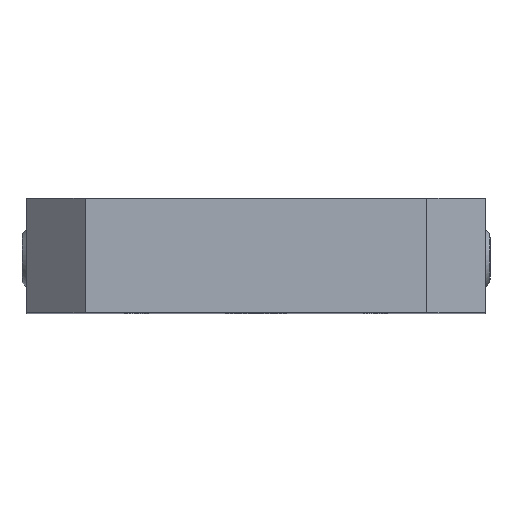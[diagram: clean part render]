
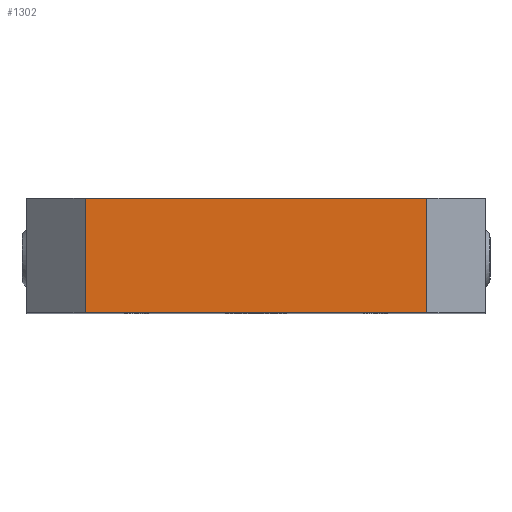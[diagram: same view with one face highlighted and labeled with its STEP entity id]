
A CAD part, top view. The second image highlights one B-rep face of the part: STEP entity #1302.
In plain terms, the highlighted planar face has unit normal (0, 0, 1).
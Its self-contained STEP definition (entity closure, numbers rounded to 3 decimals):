
#8 = VERTEX_POINT ( 'NONE', #1368 ) ;
#222 = PLANE ( 'NONE',  #4430 ) ;
#280 = ORIENTED_EDGE ( 'NONE', *, *, #3803, .T. ) ;
#319 = ORIENTED_EDGE ( 'NONE', *, *, #3734, .F. ) ;
#357 = CARTESIAN_POINT ( 'NONE',  ( -37.3, 0., 64.135 ) ) ;
#592 = VECTOR ( 'NONE', #4809, 1000. ) ;
#890 = DIRECTION ( 'NONE',  ( 0., 1., 0. ) ) ;
#1064 = CARTESIAN_POINT ( 'NONE',  ( 37.3, 0., 64.135 ) ) ;
#1302 = ADVANCED_FACE ( 'NONE', ( #4907 ), #222, .F. ) ;
#1368 = CARTESIAN_POINT ( 'NONE',  ( -37.3, 0., 64.135 ) ) ;
#1410 = DIRECTION ( 'NONE',  ( -1., 0., 0. ) ) ;
#1543 = VERTEX_POINT ( 'NONE', #3493 ) ;
#2109 = DIRECTION ( 'NONE',  ( -1., 0., 0. ) ) ;
#2346 = CARTESIAN_POINT ( 'NONE',  ( 37.3, 0., 64.135 ) ) ;
#2657 = LINE ( 'NONE', #6492, #4449 ) ;
#2708 = CARTESIAN_POINT ( 'NONE',  ( 37.3, 25., 64.135 ) ) ;
#2825 = CARTESIAN_POINT ( 'NONE',  ( -37.3, 25., 64.135 ) ) ;
#3227 = CARTESIAN_POINT ( 'NONE',  ( 37.3, 0., 64.135 ) ) ;
#3280 = ORIENTED_EDGE ( 'NONE', *, *, #6538, .T. ) ;
#3300 = VECTOR ( 'NONE', #6371, 1000. ) ;
#3390 = LINE ( 'NONE', #357, #3300 ) ;
#3493 = CARTESIAN_POINT ( 'NONE',  ( 37.3, 25., 64.135 ) ) ;
#3537 = EDGE_LOOP ( 'NONE', ( #280, #6586, #319, #3280 ) ) ;
#3734 = EDGE_CURVE ( 'NONE', #7674, #8, #5414, .T. ) ;
#3803 = EDGE_CURVE ( 'NONE', #1543, #6020, #7147, .T. ) ;
#4430 = AXIS2_PLACEMENT_3D ( 'NONE', #3227, #5712, #1410 ) ;
#4449 = VECTOR ( 'NONE', #890, 1000. ) ;
#4809 = DIRECTION ( 'NONE',  ( -1., 0., 0. ) ) ;
#4907 = FACE_OUTER_BOUND ( 'NONE', #3537, .T. ) ;
#5414 = LINE ( 'NONE', #2346, #592 ) ;
#5712 = DIRECTION ( 'NONE',  ( 0., 0., -1. ) ) ;
#6020 = VERTEX_POINT ( 'NONE', #2825 ) ;
#6371 = DIRECTION ( 'NONE',  ( 0., 1., 0. ) ) ;
#6491 = EDGE_CURVE ( 'NONE', #8, #6020, #3390, .T. ) ;
#6492 = CARTESIAN_POINT ( 'NONE',  ( 37.3, 0., 64.135 ) ) ;
#6538 = EDGE_CURVE ( 'NONE', #7674, #1543, #2657, .T. ) ;
#6586 = ORIENTED_EDGE ( 'NONE', *, *, #6491, .F. ) ;
#7036 = VECTOR ( 'NONE', #2109, 1000. ) ;
#7147 = LINE ( 'NONE', #2708, #7036 ) ;
#7674 = VERTEX_POINT ( 'NONE', #1064 ) ;
